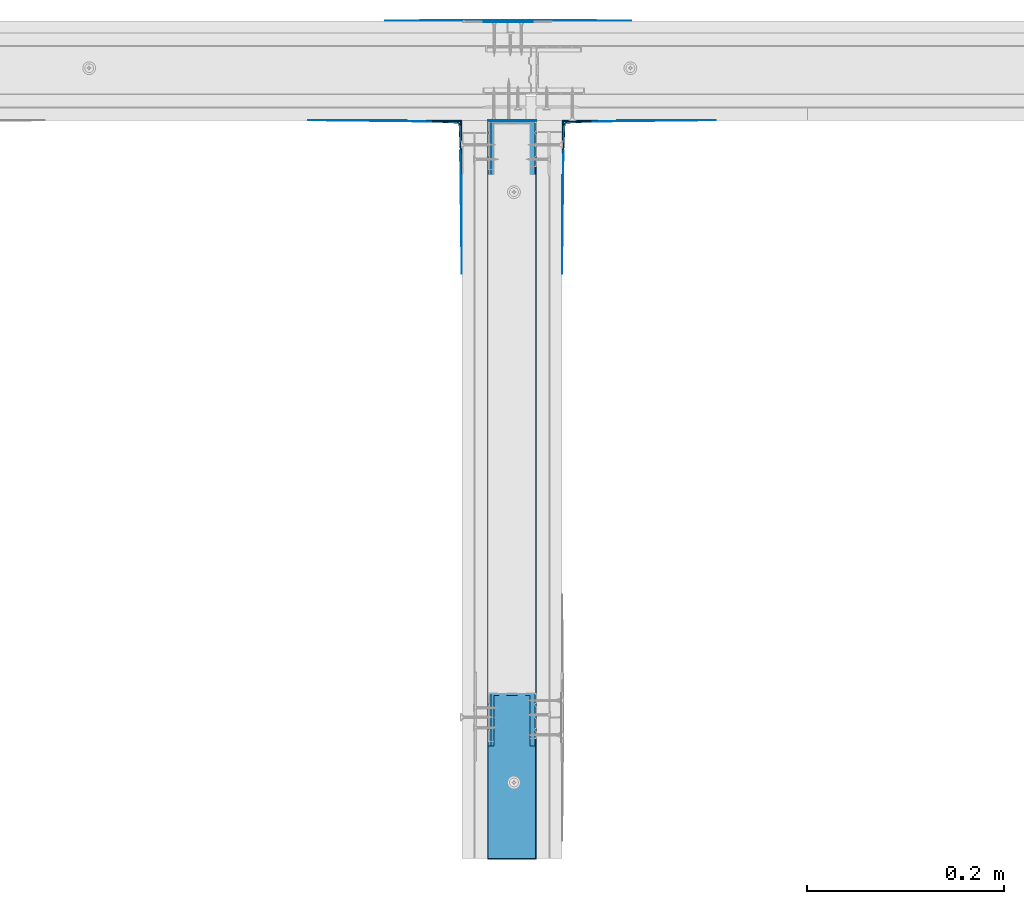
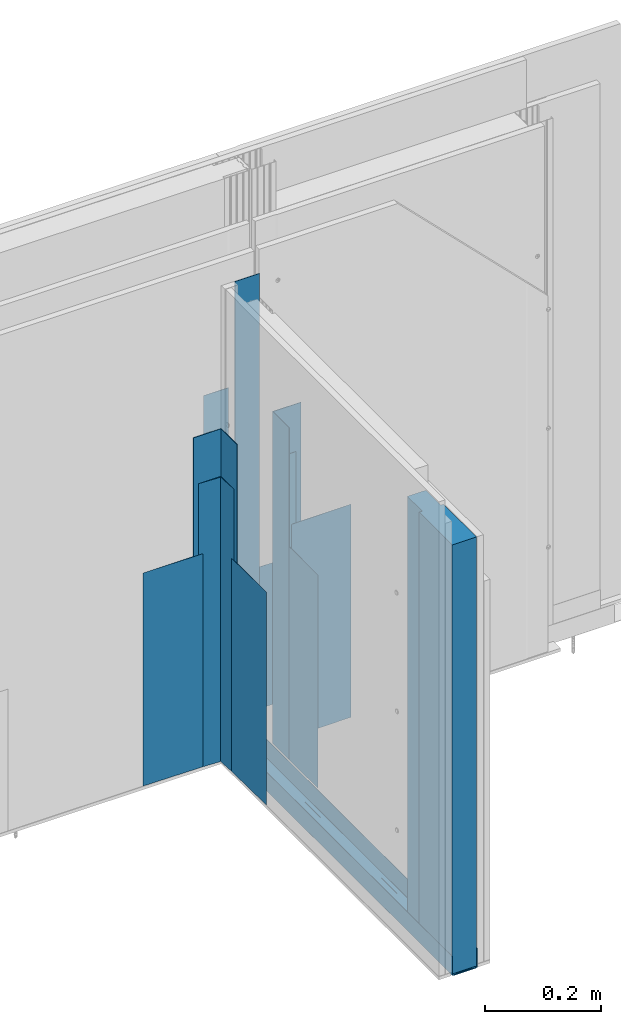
# One storey, part 7 of 95: 14 walls.
"""IFC2X3 building model written with IfcOpenShell, lengths in millimetres."""

from ifc_helpers import new_model, entity, si_unit, converted_unit, direction, frame, origin, origin_with_axes, place, context, project, spatial, faceted_brep, element, save


model = new_model("IFC2X3")

# Units and contexts
model_context = context("Model", 3, precision=1e-05, world=origin(), true_north=direction((0.0, 1.0, 0.0)))
ifc_project = project(units=[si_unit("LENGTHUNIT", "METRE", prefix="MILLI"), si_unit("AREAUNIT", "SQUARE_METRE"), si_unit("VOLUMEUNIT", "CUBIC_METRE"), converted_unit("PLANEANGLEUNIT", "DEGREE", entity("IfcPlaneAngleMeasure", 0.01745), si_unit("PLANEANGLEUNIT", "RADIAN"), dimensions=[0, 0, 0, 0, 0, 0, 0]), si_unit("SOLIDANGLEUNIT", "STERADIAN"), si_unit("MASSUNIT", "GRAM"), si_unit("TIMEUNIT", "SECOND"), si_unit("THERMODYNAMICTEMPERATUREUNIT", "DEGREE_CELSIUS"), si_unit("LUMINOUSINTENSITYUNIT", "LUMEN")], contexts=[model_context])

# Site, building, storey
site_placement = place(None, origin_with_axes())
site = spatial("IfcSite", under=ifc_project, at=site_placement, Name="Default Site", CompositionType="ELEMENT")
building_placement = place(site_placement, origin_with_axes())
building = spatial("IfcBuilding", under=site, at=building_placement, Name="Default Building", CompositionType="ELEMENT")
storey_placement = place(building_placement, origin_with_axes())
storey = spatial("IfcBuildingStorey", under=building, at=storey_placement, Name="Default Building Storey", CompositionType="ELEMENT", Elevation=0.0)

# Walls
wall_1_placement = place(storey_placement, frame((6271.757332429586, 1398.641032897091, 8.248997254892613), z_axis=(-6.858158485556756e-13, -8.981899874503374e-14, 1.0), x_axis=(9.63732535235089e-16, -1.0, -6.464899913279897e-14)))
element("IfcWall", 1, at=wall_1_placement, inside=storey, Name="Profil RIGIPS UW 50 ULTRASTIL®", context=model_context, shape_type="Brep", body=[
    faceted_brep([(-623.1047574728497, -3479.733223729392, 35.00000000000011), (-623.1047574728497, -3480.283223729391, 35.00000000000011), (-623.1047574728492, -3480.283223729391, -4.19999999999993), (-623.1047574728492, -3480.273374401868, -4.32514757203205), (-623.1047574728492, -3480.244068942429, -4.447213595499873), (-623.1047574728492, -3480.196028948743, -4.563192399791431), (-623.1047574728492, -3480.130437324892, -4.670228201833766), (-623.1047574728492, -3480.04890915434, -4.765685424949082), (-623.1047574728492, -3479.953451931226, -4.84721359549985), (-623.1047574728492, -3479.846416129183, -4.912805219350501), (-623.1047574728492, -3479.730437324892, -4.960845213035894), (-623.1047574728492, -3479.608371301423, -4.990150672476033), (-623.1047574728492, -3479.483223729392, -4.999999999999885), (-623.1047574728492, -3470.908620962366, -4.999999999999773), (-623.1047574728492, -3470.686924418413, -4.975115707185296), (-623.1047574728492, -3470.476261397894, -4.901701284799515), (-623.1047574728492, -3470.128902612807, -4.626130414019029), (-623.1047574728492, -3470.009494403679, -4.437688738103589), (-623.1047574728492, -3469.68072520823, -3.762311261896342), (-623.1047574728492, -3469.561316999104, -3.573869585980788), (-623.1047574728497, -3469.403103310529, -3.416589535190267), (-623.1047574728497, -3469.213958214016, -3.298298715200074), (-623.1047574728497, -3469.003295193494, -3.224884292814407), (-623.1047574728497, -3468.781598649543, -3.19999999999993), (-623.1047574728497, -3441.78484880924, -3.199999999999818), (-623.1047574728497, -3441.563152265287, -3.224884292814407), (-623.1047574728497, -3441.352489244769, -3.298298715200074), (-623.1047574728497, -3441.163344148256, -3.416589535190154), (-623.1047574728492, -3441.005130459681, -3.573869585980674), (-623.1047574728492, -3440.885722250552, -3.762311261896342), (-623.1047574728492, -3440.556953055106, -4.437688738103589), (-623.1047574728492, -3440.437544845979, -4.626130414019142), (-623.1047574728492, -3440.279331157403, -4.783410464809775), (-623.1047574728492, -3439.87952304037, -4.97511570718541), (-623.1047574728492, -3439.657826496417, -4.999999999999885), (-623.1047574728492, -3431.083223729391, -4.999999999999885), (-623.1047574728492, -3430.95807615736, -4.990150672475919), (-623.1047574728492, -3430.836010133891, -4.960845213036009), (-623.1047574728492, -3430.7200313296, -4.912805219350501), (-623.1047574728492, -3430.612995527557, -4.847213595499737), (-623.1047574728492, -3430.517538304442, -4.765685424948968), (-623.1047574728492, -3430.436010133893, -4.670228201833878), (-623.1047574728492, -3430.370418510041, -4.563192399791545), (-623.1047574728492, -3430.322378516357, -4.447213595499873), (-623.1047574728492, -3430.293073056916, -4.32514757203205), (-623.1047574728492, -3430.283223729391, -4.19999999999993), (-623.1047574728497, -3430.283223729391, 35.00000000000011), (-623.1047574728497, -3430.833223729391, 35.00000000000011), (-623.1047574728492, -3430.833223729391, -4.19999999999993), (-623.1047574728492, -3430.836301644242, -4.239108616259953), (-623.1047574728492, -3430.845459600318, -4.277254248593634), (-623.1047574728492, -3430.860472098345, -4.313497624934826), (-623.1047574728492, -3430.880969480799, -4.34694631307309), (-623.1047574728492, -3430.906447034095, -4.376776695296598), (-623.1047574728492, -3430.93627741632, -4.402254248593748), (-623.1047574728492, -3430.969726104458, -4.422751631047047), (-623.1047574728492, -3431.005969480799, -4.437764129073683), (-623.1047574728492, -3431.044115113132, -4.446922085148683), (-623.1047574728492, -3431.083223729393, -4.44999999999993), (-623.1047574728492, -3439.313858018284, -4.450000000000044), (-623.1047574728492, -3439.535554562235, -4.425115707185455), (-623.1047574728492, -3439.746217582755, -4.351701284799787), (-623.1047574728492, -3439.935362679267, -4.233410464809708), (-623.1047574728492, -3440.093576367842, -4.076130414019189), (-623.1047574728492, -3440.21298457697, -3.88768873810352), (-623.1047574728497, -3440.541753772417, -3.212311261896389), (-623.1047574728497, -3440.661161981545, -3.023869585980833), (-623.1047574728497, -3440.819375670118, -2.866589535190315), (-623.1047574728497, -3441.219183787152, -2.674884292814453), (-623.1047574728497, -3441.440880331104, -2.649999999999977), (-623.1047574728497, -3469.125567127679, -2.649999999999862), (-623.1047574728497, -3469.347263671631, -2.674884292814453), (-623.1047574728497, -3469.557926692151, -2.748298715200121), (-623.1047574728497, -3469.905285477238, -3.023869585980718), (-623.1047574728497, -3470.024693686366, -3.212311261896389), (-623.1047574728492, -3470.353462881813, -3.88768873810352), (-623.1047574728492, -3470.472871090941, -4.076130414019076), (-623.1047574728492, -3470.631084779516, -4.233410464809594), (-623.1047574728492, -3470.82022987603, -4.351701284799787), (-623.1047574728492, -3471.030892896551, -4.425115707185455), (-623.1047574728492, -3471.252589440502, -4.44999999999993), (-623.1047574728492, -3479.483223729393, -4.449999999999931), (-623.1047574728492, -3479.522332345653, -4.446922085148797), (-623.1047574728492, -3479.560477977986, -4.437764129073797), (-623.1047574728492, -3479.596721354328, -4.422751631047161), (-623.1047574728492, -3479.630170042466, -4.402254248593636), (-623.1047574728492, -3479.660000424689, -4.376776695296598), (-623.1047574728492, -3479.685477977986, -4.34694631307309), (-623.1047574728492, -3479.705975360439, -4.313497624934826), (-623.1047574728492, -3479.720987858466, -4.277254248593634), (-623.1047574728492, -3479.730145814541, -4.239108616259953), (-623.1047574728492, -3479.733223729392, -4.19999999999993), (127.7471376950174, -3480.283223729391, -4.200000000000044), (127.7471376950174, -3480.283223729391, 35.0), (127.7471376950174, -3479.733223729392, 35.0), (127.7471376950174, -3479.733223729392, -4.200000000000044), (127.7471376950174, -3479.730145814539, -4.239108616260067), (127.7471376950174, -3479.720987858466, -4.277254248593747), (127.7471376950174, -3479.705975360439, -4.313497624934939), (127.7471376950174, -3479.685477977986, -4.346946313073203), (127.7471376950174, -3479.660000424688, -4.376776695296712), (127.7471376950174, -3479.630170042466, -4.402254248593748), (127.7471376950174, -3479.596721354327, -4.422751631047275), (127.7471376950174, -3479.560477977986, -4.43776412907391), (127.7471376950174, -3479.522332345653, -4.446922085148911), (127.7471376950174, -3479.483223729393, -4.450000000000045), (127.7471376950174, -3471.252589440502, -4.450000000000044), (127.7471376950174, -3471.03089289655, -4.425115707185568), (127.7471376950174, -3470.820229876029, -4.351701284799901), (127.7471376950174, -3470.631084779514, -4.233410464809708), (127.7471376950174, -3470.472871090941, -4.076130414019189), (127.7471376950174, -3470.353462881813, -3.887688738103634), (127.7471376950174, -3470.024693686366, -3.212311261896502), (127.7471376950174, -3469.905285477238, -3.023869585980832), (127.7471376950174, -3469.557926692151, -2.748298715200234), (127.7471376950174, -3469.34726367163, -2.674884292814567), (127.7471376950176, -3469.125567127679, -2.649999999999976), (127.7471376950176, -3441.440880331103, -2.65000000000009), (127.7471376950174, -3441.219183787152, -2.674884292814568), (127.7471376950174, -3440.819375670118, -2.866589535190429), (127.7471376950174, -3440.661161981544, -3.023869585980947), (127.7471376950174, -3440.541753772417, -3.212311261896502), (127.7471376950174, -3440.212984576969, -3.887688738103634), (127.7471376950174, -3440.093576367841, -4.076130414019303), (127.7471376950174, -3439.935362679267, -4.233410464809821), (127.7471376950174, -3439.746217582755, -4.351701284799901), (127.7471376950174, -3439.535554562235, -4.425115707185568), (127.7471376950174, -3439.313858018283, -4.450000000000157), (127.7471376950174, -3431.083223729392, -4.450000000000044), (127.7471376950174, -3431.044115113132, -4.446922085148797), (127.7471376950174, -3431.005969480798, -4.437764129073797), (127.7471376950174, -3430.969726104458, -4.422751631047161), (127.7471376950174, -3430.936277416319, -4.402254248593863), (127.7471376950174, -3430.906447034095, -4.376776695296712), (127.7471376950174, -3430.880969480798, -4.346946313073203), (127.7471376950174, -3430.860472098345, -4.313497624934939), (127.7471376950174, -3430.845459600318, -4.277254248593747), (127.7471376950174, -3430.836301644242, -4.239108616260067), (127.7471376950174, -3430.833223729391, -4.200000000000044), (127.7471376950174, -3430.833223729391, 35.0), (127.7471376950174, -3430.283223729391, 35.0), (127.7471376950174, -3430.283223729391, -4.200000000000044), (127.7471376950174, -3430.293073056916, -4.325147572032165), (127.7471376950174, -3430.322378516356, -4.447213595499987), (127.7471376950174, -3430.370418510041, -4.563192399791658), (127.7471376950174, -3430.436010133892, -4.670228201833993), (127.7471376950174, -3430.517538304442, -4.765685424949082), (127.7471376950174, -3430.612995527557, -4.84721359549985), (127.7471376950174, -3430.7200313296, -4.912805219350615), (127.7471376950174, -3430.836010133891, -4.960845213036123), (127.7471376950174, -3430.958076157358, -4.990150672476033), (127.7471376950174, -3431.083223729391, -4.999999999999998), (127.7471376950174, -3439.657826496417, -4.999999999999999), (127.7471376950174, -3439.879523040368, -4.975115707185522), (127.7471376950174, -3440.279331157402, -4.783410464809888), (127.7471376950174, -3440.437544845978, -4.626130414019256), (127.7471376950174, -3440.556953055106, -4.437688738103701), (127.7471376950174, -3440.885722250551, -3.762311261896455), (127.7471376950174, -3441.005130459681, -3.573869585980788), (127.7471376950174, -3441.163344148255, -3.416589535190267), (127.7471376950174, -3441.352489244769, -3.298298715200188), (127.7471376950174, -3441.563152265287, -3.224884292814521), (127.7471376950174, -3441.78484880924, -3.199999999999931), (127.7471376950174, -3468.781598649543, -3.200000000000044), (127.7471376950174, -3469.003295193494, -3.224884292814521), (127.7471376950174, -3469.213958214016, -3.298298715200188), (127.7471376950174, -3469.403103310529, -3.416589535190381), (127.7471376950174, -3469.561316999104, -3.573869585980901), (127.7471376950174, -3469.680725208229, -3.762311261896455), (127.7471376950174, -3470.009494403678, -4.437688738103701), (127.7471376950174, -3470.128902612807, -4.626130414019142), (127.7471376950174, -3470.476261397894, -4.901701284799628), (127.7471376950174, -3470.686924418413, -4.97511570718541), (127.7471376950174, -3470.908620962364, -4.999999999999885), (127.7471376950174, -3479.483223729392, -4.999999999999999), (127.7471376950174, -3479.608371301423, -4.990150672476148), (127.7471376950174, -3479.73043732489, -4.960845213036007), (127.7471376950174, -3479.846416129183, -4.912805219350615), (127.7471376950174, -3479.953451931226, -4.847213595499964), (127.7471376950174, -3480.04890915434, -4.765685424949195), (127.7471376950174, -3480.130437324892, -4.670228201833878), (127.7471376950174, -3480.196028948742, -4.563192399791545), (127.7471376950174, -3480.244068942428, -4.447213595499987), (127.7471376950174, -3480.273374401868, -4.325147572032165), (-623.1047574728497, -3441.008520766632, -2.748298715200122), (127.7471376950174, -3441.008520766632, -2.748298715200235), (-623.1047574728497, -3469.747071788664, -2.8665895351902), (127.7471376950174, -3469.747071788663, -2.866589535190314), (-623.1047574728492, -3470.063927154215, -4.535249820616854), (127.7471376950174, -3470.063927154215, -4.535249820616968), (-623.1047574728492, -3470.287116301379, -4.783410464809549), (127.7471376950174, -3470.287116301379, -4.783410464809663), (-623.1047574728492, -3440.09018606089, -4.901701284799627), (127.7471376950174, -3440.09018606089, -4.90170128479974)], [[[0, 1, 2, 3, 4, 5, 6, 7, 8, 9, 10, 11, 12, 13, 14, 15, 16, 17, 18, 19, 20, 21, 22, 23, 24, 25, 26, 27, 28, 29, 30, 31, 32, 33, 34, 35, 36, 37, 38, 39, 40, 41, 42, 43, 44, 45, 46, 47, 48, 49, 50, 51, 52, 53, 54, 55, 56, 57, 58, 59, 60, 61, 62, 63, 64, 65, 66, 67, 68, 69, 70, 71, 72, 73, 74, 75, 76, 77, 78, 79, 80, 81, 82, 83, 84, 85, 86, 87, 88, 89, 90, 91]], [[92, 93, 94, 95, 96, 97, 98, 99, 100, 101, 102, 103, 104, 105, 106, 107, 108, 109, 110, 111, 112, 113, 114, 115, 116, 117, 118, 119, 120, 121, 122, 123, 124, 125, 126, 127, 128, 129, 130, 131, 132, 133, 134, 135, 136, 137, 138, 139, 140, 141, 142, 143, 144, 145, 146, 147, 148, 149, 150, 151, 152, 153, 154, 155, 156, 157, 158, 159, 160, 161, 162, 163, 164, 165, 166, 167, 168, 169, 170, 171, 172, 173, 174, 175, 176, 177, 178, 179, 180, 181, 182, 183]], [[45, 141, 140, 46]], [[46, 140, 139, 47]], [[47, 139, 138, 48]], [[128, 58, 57, 129]], [[56, 130, 129, 57]], [[55, 131, 130, 56]], [[131, 55, 54, 132]], [[53, 133, 132, 54]], [[133, 53, 52, 134]], [[51, 135, 134, 52]], [[50, 136, 135, 51]], [[136, 50, 49, 137]], [[48, 138, 137, 49]], [[58, 128, 127, 59]], [[63, 123, 122, 64]], [[62, 124, 123, 63]], [[61, 125, 124, 62]], [[127, 126, 60, 59]], [[60, 126, 125, 61]], [[64, 122, 121, 65]], [[68, 118, 117, 69]], [[184, 185, 118, 68]], [[67, 119, 185, 184]], [[66, 120, 119, 67]], [[121, 120, 66, 65]], [[69, 117, 116, 70]], [[73, 113, 112, 74]], [[186, 187, 113, 73]], [[72, 114, 187, 186]], [[71, 115, 114, 72]], [[116, 115, 71, 70]], [[74, 112, 111, 75]], [[79, 107, 106, 80]], [[78, 108, 107, 79]], [[77, 109, 108, 78]], [[111, 110, 76, 75]], [[76, 110, 109, 77]], [[80, 106, 105, 81]], [[95, 91, 90, 96]], [[89, 97, 96, 90]], [[88, 98, 97, 89]], [[98, 88, 87, 99]], [[86, 100, 99, 87]], [[100, 86, 85, 101]], [[84, 102, 101, 85]], [[83, 103, 102, 84]], [[103, 83, 82, 104]], [[81, 105, 104, 82]], [[91, 95, 94, 0]], [[0, 94, 93, 1]], [[1, 93, 92, 2]], [[11, 10, 176, 175]], [[175, 174, 12, 11]], [[9, 177, 176, 10]], [[8, 7, 179, 178]], [[178, 177, 9, 8]], [[6, 5, 181, 180]], [[180, 179, 7, 6]], [[4, 182, 181, 5]], [[3, 2, 92, 183]], [[183, 182, 4, 3]], [[12, 174, 173, 13]], [[188, 16, 170, 189]], [[189, 169, 17, 188]], [[190, 191, 170, 16]], [[15, 171, 191, 190]], [[14, 172, 171, 15]], [[173, 172, 14, 13]], [[17, 169, 168, 18]], [[22, 164, 163, 23]], [[21, 165, 164, 22]], [[20, 166, 165, 21]], [[168, 167, 19, 18]], [[19, 167, 166, 20]], [[23, 163, 162, 24]], [[28, 158, 157, 29]], [[27, 159, 158, 28]], [[26, 160, 159, 27]], [[162, 161, 25, 24]], [[25, 161, 160, 26]], [[29, 157, 156, 30]], [[33, 153, 152, 34]], [[192, 193, 153, 33]], [[32, 154, 193, 192]], [[31, 155, 154, 32]], [[156, 155, 31, 30]], [[34, 152, 151, 35]], [[44, 43, 143, 142]], [[142, 141, 45, 44]], [[42, 144, 143, 43]], [[41, 40, 146, 145]], [[145, 144, 42, 41]], [[39, 38, 148, 147]], [[147, 146, 40, 39]], [[37, 149, 148, 38]], [[36, 35, 151, 150]], [[150, 149, 37, 36]]]),
])
wall_2_placement = place(storey_placement, frame((6272.757332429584, 1395.188407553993, 8.248997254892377), z_axis=(-6.858158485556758e-13, -8.981899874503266e-14, 1.0), x_axis=(-3.649221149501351e-16, -1.0, -6.464899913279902e-14)))
element("IfcWall", 2, at=wall_2_placement, inside=storey, Name="Taśma uszczelniająca piankowa RIGIPS", context=model_context, shape_type="Brep", body=[
    faceted_brep([(-626.5573828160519, -3477.783223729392, -5.000000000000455), (-626.5573828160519, -3477.862841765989, -6.006369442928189), (-626.5573828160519, -3432.691889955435, -5.864971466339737), (-626.5573828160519, -3432.783223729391, -5.000000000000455), (124.2945123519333, -3477.862841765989, -6.006369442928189), (124.2945123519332, -3477.783223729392, -5.000000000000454), (124.2945123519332, -3432.783223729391, -5.000000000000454), (124.2945123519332, -3432.691889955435, -5.864971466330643)], [[[0, 1, 2, 3]], [[4, 5, 6, 7]], [[5, 0, 3, 6]], [[6, 3, 2, 7]], [[7, 2, 1, 4]], [[4, 1, 0, 5]]]),
])
wall_3_placement = place(storey_placement, frame((6271.778123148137, 1276.117588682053, 7.893769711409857), z_axis=(-7.620176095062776e-14, 6.858158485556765e-13, 1.0), x_axis=(4.440892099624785e-16, -1.0, 6.858158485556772e-13)))
element("IfcWall", 3, at=wall_3_placement, inside=storey, Name="Wełna mineralna szklana lub skalna ISOVER", context=model_context, shape_type="Brep", body=[
    faceted_brep([(-161.2775660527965, -3473.633223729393, -2.29477245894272), (-161.2775660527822, -3473.633223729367, 900.3552275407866), (-109.923547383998, -3473.633223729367, 900.3552275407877), (-109.9235473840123, -3473.633223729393, -2.294772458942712), (-109.923547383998, -3479.633223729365, 900.355227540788), (-109.9235473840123, -3479.633223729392, -2.294772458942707), (-161.2775660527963, -3436.833223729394, -2.294772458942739), (-161.2775660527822, -3436.833223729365, 900.3552275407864), (-109.9235473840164, -3436.833223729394, -2.294772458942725), (-109.9235473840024, -3436.833223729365, 900.3552275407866), (-109.9235473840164, -3431.283223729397, -2.29477245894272), (3.979796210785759, -3431.283223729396, -2.294772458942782), (3.979796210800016, -3431.283223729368, 900.3552275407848), (-109.9235473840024, -3431.28322372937, 900.355227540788), (3.979796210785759, -3479.633223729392, -2.29477245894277), (3.979796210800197, -3479.633223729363, 900.3552275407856)], [[[0, 1, 2, 3]], [[3, 2, 4, 5]], [[1, 0, 6, 7]], [[7, 6, 8, 9]], [[10, 11, 12, 13]], [[9, 8, 10, 13]], [[3, 5, 14, 11, 10, 8, 6, 0]], [[4, 15, 14, 5]], [[15, 4, 2, 1, 7, 9, 13, 12]], [[14, 15, 12, 11]]]),
])
wall_4_placement = place(storey_placement, frame((2816.79106908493, 2010.770002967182, -205.1555179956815), z_axis=(-2.220446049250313e-16, 1.0, -8.881784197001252e-16), x_axis=(1.97215226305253e-31, -8.881784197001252e-16, -1.0)))
element("IfcWall", 4, at=wall_4_placement, inside=storey, Name="Taśma uszczelniająca piankowa RIGIPS", context=model_context, shape_type="Brep", body=[
    faceted_brep([(-215.1539363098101, 24.6461696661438, 10.45350655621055), (-215.1539363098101, -24.1439810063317, 10.45350655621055), (-1213.404515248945, -24.1439810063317, 10.45350655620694), (-1213.404515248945, 24.6461696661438, 10.45350655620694), (-215.1539363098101, -24.1439810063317, 11.37091977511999), (-1213.404515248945, -24.1439810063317, 11.37091977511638), (-215.1539363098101, 24.6461696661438, 11.37091977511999), (-1213.404515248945, 24.6461696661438, 11.37091977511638)], [[[0, 1, 2, 3]], [[1, 4, 5, 2]], [[4, 6, 7, 5]], [[6, 0, 3, 7]], [[7, 3, 2, 5]], [[0, 6, 4, 1]]]),
])
wall_5_placement = place(storey_placement, frame((2762.474108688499, 1976.140922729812, 810.000000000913), z_axis=(-2.892047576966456e-11, 2.634976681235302e-11, 1.0), x_axis=(3.608225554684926e-16, 1.0, -2.634976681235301e-11)))
element("IfcWall", 5, at=wall_5_placement, inside=storey, Name="Taśma narożnikowa HABITO® NO-COAT®", context=model_context, shape_type="Brep", body=[
    faceted_brep([(44.99999999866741, 1.999999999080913, -201.651578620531), (42.99999999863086, -7.829129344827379e-10, -201.6515786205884), (42.99999999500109, -3.099887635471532e-09, -800.0015816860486), (45.0000000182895, 2.000000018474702, -800.001581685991), (40.99999999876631, -2.000000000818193, -201.6515786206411), (40.99999999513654, -2.000000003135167, -800.0015816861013), (44.99999999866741, -2.000000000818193, -201.6515786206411), (44.99999999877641, -1.999999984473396, -800.0015816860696), (44.99999999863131, 42.99999999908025, -201.651578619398), (45.00000001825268, 43.00000001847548, -800.001581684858), (-1.233746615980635e-09, -2.00000000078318, -201.6515786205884), (-4.863517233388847e-09, -2.000000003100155, -800.0015816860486)], [[[0, 1, 2, 3]], [[1, 4, 5, 2]], [[4, 6, 7, 5]], [[6, 0, 3, 7]], [[7, 3, 2, 5]], [[0, 6, 4, 1]], [[1, 8, 0]], [[8, 1, 2, 9]], [[0, 8, 9, 3]], [[3, 9, 2]], [[10, 1, 4]], [[1, 10, 11, 2]], [[10, 4, 5, 11]], [[11, 5, 2]]]),
])
wall_6_placement = place(storey_placement, frame((2762.474108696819, 1866.140922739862, 608.3484213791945), z_axis=(0.0, 0.0, 1.0), x_axis=(3.618549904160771e-13, 1.0, 0.0)))
element("IfcWall", 6, at=wall_6_placement, inside=storey, Name="Dedykowana masa szpachlowa Rigips - wykończeniowa", context=model_context, shape_type="Brep", body=[
    faceted_brep([(8.99533225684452e-13, -3.000000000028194, -598.3500030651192), (100.0000000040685, -3.000000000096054, -598.3500030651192), (100.0000000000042, -2.000000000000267, -598.3500030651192), (100.0000000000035, -1.827216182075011, -598.3500030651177), (125.0248246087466, -1.533729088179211, -149.9999999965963), (1.350727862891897e-12, -3.000000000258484, -149.9999999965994), (125.024824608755, -1.533729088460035, -598.3500030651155), (114.999999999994, -2.000000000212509, -149.9999999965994), (100.0000000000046, -2.000000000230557, -149.9999999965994), (100.000000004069, -3.000000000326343, -149.9999999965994)], [[[0, 1, 2, 3]], [[4, 5, 0, 3, 6]], [[4, 7, 8, 9, 5]], [[5, 9, 1, 0]], [[9, 8, 2, 1]]]),
])
wall_7_placement = place(storey_placement, frame((2685.474108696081, 2022.14092274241, 608.3484213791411), z_axis=(0.0, 0.0, 1.0), x_axis=(1.0, 0.0, 0.0)))
element("IfcWall", 7, at=wall_7_placement, inside=storey, Name="Dedykowana masa szpachlowa Rigips - konstrukcyjna", context=model_context, shape_type="Brep", body=[
    faceted_brep([(23.99999999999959, -9.796337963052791e-10, 100.0000000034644), (23.99999999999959, -1.000000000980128, 100.000000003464), (23.99999999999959, -0.9999999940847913, -598.3500030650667), (23.99999999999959, 5.915703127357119e-09, -598.3500030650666), (79.0000000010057, -1.000000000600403, 100.0000000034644), (79.0000000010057, -0.999999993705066, -598.3500030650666), (79.0000000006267, -56.0000000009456, 100.0000000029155), (79.0000000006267, -55.99999999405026, -598.350003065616), (80.0000000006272, -56.0000000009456, 100.0000000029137), (80.0000000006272, -55.99999999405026, -598.3500030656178), (79.99999999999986, -9.796337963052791e-10, 100.0000000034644), (79.99999999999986, 5.915703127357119e-09, -598.3500030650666)], [[[0, 1, 2, 3]], [[1, 4, 5, 2]], [[4, 6, 7, 5]], [[6, 8, 9, 7]], [[8, 10, 11, 9]], [[10, 0, 3, 11]], [[11, 3, 2, 5, 7, 9]], [[0, 10, 8, 6, 4, 1]]]),
])
wall_8_placement = place(storey_placement, frame((2609.474108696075, 2019.140922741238, 608.3484213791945), z_axis=(0.0, 0.0, 1.0), x_axis=(1.0, -3.613775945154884e-13, 0.0)))
element("IfcWall", 8, at=wall_8_placement, inside=storey, Name="Dedykowana masa szpachlowa Rigips - wykończeniowa", context=model_context, shape_type="Brep", body=[
    faceted_brep([(8.987255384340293e-13, 3.000000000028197, -598.3500030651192), (100.0000000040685, 3.000000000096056, -598.3500030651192), (100.0000000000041, 2.000000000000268, -598.3500030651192), (100.0000000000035, 1.827216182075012, -598.3500030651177), (125.0248246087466, 1.533729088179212, -149.9999999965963), (1.349920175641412e-12, 3.000000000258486, -149.9999999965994), (125.0248246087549, 1.533729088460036, -598.3500030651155), (114.9999999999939, 2.00000000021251, -149.9999999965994), (100.0000000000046, 2.000000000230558, -149.9999999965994), (100.0000000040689, 3.000000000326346, -149.9999999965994)], [[[0, 1, 2, 3]], [[4, 5, 0, 3, 6]], [[4, 7, 8, 9, 5]], [[5, 9, 1, 0]], [[9, 8, 2, 1]]]),
])
wall_9_placement = place(storey_placement, frame((2947.474108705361, 2022.14092274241, 608.3484213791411), z_axis=(0.0, 0.0, 1.0), x_axis=(-1.0, 0.0, 0.0)))
element("IfcWall", 9, at=wall_9_placement, inside=storey, Name="Dedykowana masa szpachlowa Rigips - konstrukcyjna", context=model_context, shape_type="Brep", body=[
    faceted_brep([(23.99999999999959, 9.796337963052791e-10, 100.0000000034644), (23.99999999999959, 1.000000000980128, 100.000000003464), (23.99999999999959, 0.9999999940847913, -598.3500030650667), (23.99999999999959, -5.915703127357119e-09, -598.3500030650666), (79.0000000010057, 1.000000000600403, 100.0000000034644), (79.0000000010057, 0.999999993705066, -598.3500030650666), (79.0000000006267, 56.0000000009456, 100.0000000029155), (79.0000000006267, 55.99999999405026, -598.350003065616), (80.0000000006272, 56.0000000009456, 100.0000000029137), (80.0000000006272, 55.99999999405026, -598.3500030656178), (79.99999999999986, 9.796337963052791e-10, 100.0000000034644), (79.99999999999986, -5.915703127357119e-09, -598.3500030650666)], [[[0, 1, 2, 3]], [[1, 4, 5, 2]], [[4, 6, 7, 5]], [[6, 8, 9, 7]], [[8, 10, 11, 9]], [[10, 0, 3, 11]], [[11, 3, 2, 5, 7, 9]], [[0, 10, 8, 6, 4, 1]]]),
])
wall_10_placement = place(storey_placement, frame((2870.474108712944, 1976.140922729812, 810.000000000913), z_axis=(2.892047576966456e-11, 2.634976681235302e-11, 1.0), x_axis=(-3.608225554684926e-16, 1.0, -2.634976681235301e-11)))
element("IfcWall", 10, at=wall_10_placement, inside=storey, Name="Taśma narożnikowa HABITO® NO-COAT®", context=model_context, shape_type="Brep", body=[
    faceted_brep([(44.99999999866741, -1.999999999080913, -201.651578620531), (42.99999999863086, 7.829129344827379e-10, -201.6515786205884), (42.99999999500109, 3.099887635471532e-09, -800.0015816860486), (45.0000000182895, -2.000000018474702, -800.001581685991), (40.99999999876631, 2.000000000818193, -201.6515786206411), (40.99999999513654, 2.000000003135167, -800.0015816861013), (44.99999999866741, 2.000000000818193, -201.6515786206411), (44.99999999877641, 1.999999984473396, -800.0015816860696), (44.99999999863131, -42.99999999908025, -201.651578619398), (45.00000001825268, -43.00000001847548, -800.001581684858), (-1.233746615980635e-09, 2.00000000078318, -201.6515786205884), (-4.863517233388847e-09, 2.000000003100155, -800.0015816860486)], [[[0, 1, 2, 3]], [[1, 4, 5, 2]], [[4, 6, 7, 5]], [[6, 0, 3, 7]], [[7, 3, 2, 5]], [[0, 6, 4, 1]], [[1, 8, 0]], [[8, 1, 2, 9]], [[0, 8, 9, 3]], [[3, 9, 2]], [[10, 1, 4]], [[1, 10, 11, 2]], [[10, 4, 5, 11]], [[11, 5, 2]]]),
])
wall_11_placement = place(storey_placement, frame((3023.474108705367, 2019.140922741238, 608.3484213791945), z_axis=(0.0, 0.0, 1.0), x_axis=(-1.0, -3.613775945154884e-13, 0.0)))
element("IfcWall", 11, at=wall_11_placement, inside=storey, Name="Dedykowana masa szpachlowa Rigips - wykończeniowa", context=model_context, shape_type="Brep", body=[
    faceted_brep([(8.987255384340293e-13, -3.000000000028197, -598.3500030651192), (100.0000000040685, -3.000000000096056, -598.3500030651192), (100.0000000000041, -2.000000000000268, -598.3500030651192), (100.0000000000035, -1.827216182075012, -598.3500030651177), (125.0248246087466, -1.533729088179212, -149.9999999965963), (1.349920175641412e-12, -3.000000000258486, -149.9999999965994), (125.0248246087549, -1.533729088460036, -598.3500030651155), (114.9999999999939, -2.00000000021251, -149.9999999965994), (100.0000000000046, -2.000000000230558, -149.9999999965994), (100.0000000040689, -3.000000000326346, -149.9999999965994)], [[[0, 1, 2, 3]], [[4, 5, 0, 3, 6]], [[4, 7, 8, 9, 5]], [[5, 9, 1, 0]], [[9, 8, 2, 1]]]),
])
wall_12_placement = place(storey_placement, frame((2870.474108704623, 1866.140922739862, 608.3484213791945), z_axis=(0.0, 0.0, 1.0), x_axis=(-3.618549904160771e-13, 1.0, 0.0)))
element("IfcWall", 12, at=wall_12_placement, inside=storey, Name="Dedykowana masa szpachlowa Rigips - wykończeniowa", context=model_context, shape_type="Brep", body=[
    faceted_brep([(8.99533225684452e-13, 3.000000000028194, -598.3500030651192), (100.0000000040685, 3.000000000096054, -598.3500030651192), (100.0000000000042, 2.000000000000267, -598.3500030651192), (100.0000000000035, 1.827216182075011, -598.3500030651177), (125.0248246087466, 1.533729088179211, -149.9999999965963), (1.350727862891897e-12, 3.000000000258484, -149.9999999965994), (125.024824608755, 1.533729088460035, -598.3500030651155), (114.999999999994, 2.000000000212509, -149.9999999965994), (100.0000000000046, 2.000000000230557, -149.9999999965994), (100.000000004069, 3.000000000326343, -149.9999999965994)], [[[0, 1, 2, 3]], [[4, 5, 0, 3, 6]], [[4, 7, 8, 9, 5]], [[5, 9, 1, 0]], [[9, 8, 2, 1]]]),
])
wall_13_placement = place(storey_placement, frame((2075.085683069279, -1267.454953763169, 7.54842138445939), z_axis=(0.0, 0.0, 1.0), x_axis=(-1.0, -8.049116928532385e-16, 0.0)))
element("IfcWall", 13, at=wall_13_placement, inside=storey, Name="Dedykowana masa szpachlowa Rigips - wykończeniowa", context=model_context, shape_type="Brep", body=[
    faceted_brep([(-612.459216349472, -3390.556721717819, 2.449996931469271), (-862.459216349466, -3390.556721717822, 2.449996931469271), (-812.4612643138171, -3391.196716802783, 2.449996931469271), (-762.4602403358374, -3391.516720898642, 2.449996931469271), (-712.458192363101, -3391.516720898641, 2.449996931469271), (-662.4571683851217, -3391.19671680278, 2.449996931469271), (-762.4602403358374, -3391.516720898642, 300.8000000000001), (-812.4612643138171, -3391.196716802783, 300.8000000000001), (-862.459216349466, -3390.556721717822, 300.8000000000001), (-612.459216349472, -3390.556721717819, 300.8000000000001), (-662.4571683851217, -3391.19671680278, 300.8000000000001), (-712.458192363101, -3391.516720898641, 300.8000000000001)], [[[0, 1, 2, 3, 4, 5]], [[6, 7, 8, 9, 10, 11]], [[9, 0, 5, 10]], [[10, 5, 4, 11]], [[11, 4, 3, 6]], [[6, 3, 2, 7]], [[1, 8, 7, 2]], [[0, 9, 8, 1]]]),
])
wall_14_placement = place(storey_placement, frame((2075.08568306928, -1267.454953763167, 7.54842138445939), z_axis=(0.0, 0.0, 1.0), x_axis=(-1.0, -8.049116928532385e-16, 0.0)))
element("IfcWall", 14, at=wall_14_placement, inside=storey, Name="Taśma spoinowa RIGIPS", context=model_context, shape_type="Brep", body=[
    faceted_brep([(-712.4592163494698, -3389.356721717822, 700.7999999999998), (-712.4592163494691, -3389.856721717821, 700.7999999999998), (-762.4592163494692, -3389.856721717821, 700.7999999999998), (-762.45921634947, -3389.35672171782, 700.7999999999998), (-712.4592163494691, -3389.856721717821, 2.449996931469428), (-712.4592163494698, -3389.35672171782, 2.449996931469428), (-762.45921634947, -3389.35672171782, 2.449996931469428), (-762.4592163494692, -3389.856721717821, 2.449996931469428)], [[[0, 1, 2, 3]], [[4, 5, 6, 7]], [[5, 0, 3, 6]], [[6, 3, 2, 7]], [[7, 2, 1, 4]], [[4, 1, 0, 5]]]),
])

save(model, "model.ifc")
